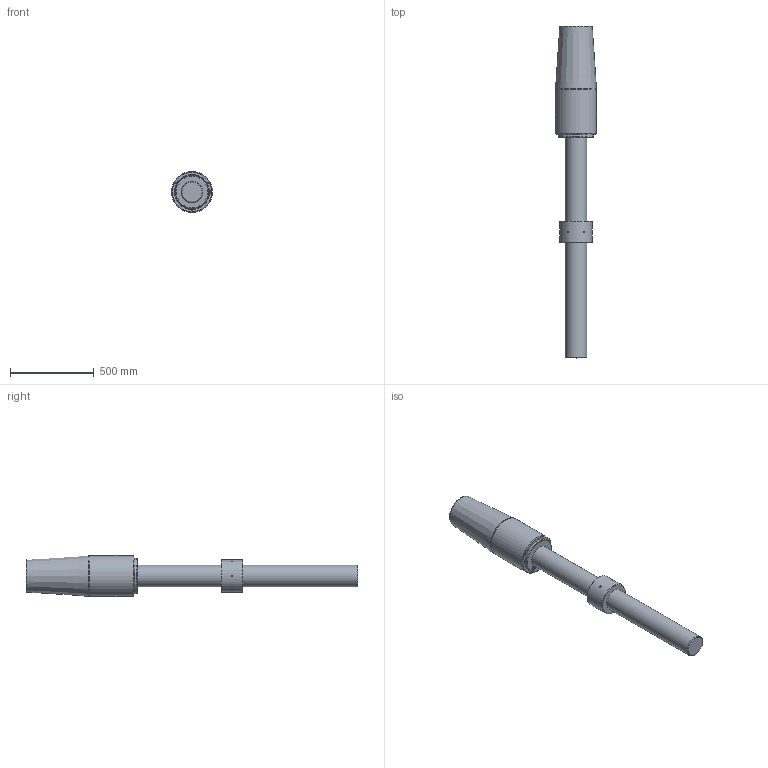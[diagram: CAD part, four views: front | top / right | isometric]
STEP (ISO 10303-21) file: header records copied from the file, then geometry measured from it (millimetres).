
FILE_DESCRIPTION(/* description */ (''),/* implementation_level */ '2;1');
FILE_NAME(/* name */ 'D:\Clienti\Redaelli (inventor)\CYB\STEP\Arrangement\CYB084 52 061 0.stp',/* time_stamp */ '2021-05-08T14:49:42+02:00',/* author */ ('fabri'),/* organization */ (''),/* preprocessor_version */ 'ST-DEVELOPER v16.13',/* originating_system */ 'Autodesk Inventor 2018',/* authorisation */ '');
FILE_SCHEMA (('AUTOMOTIVE_DESIGN { 1 0 10303 214 3 1 1 }'));
Length unit declared in the file: millimetre
Products named in the file (5): CYB084 52 061 0; RNT052 41 051 0_ROD; RNT052 41 051 0_ROD_1; CCY021-51-061-0_BUSH; CCY021-51-061-0
Assembly tree (4 placements, depth 2):
  CYB084 52 061 0
    RNT052 41 051 0_ROD
    RNT052 41 051 0_ROD_1
    CCY021-51-061-0_BUSH
    CCY021-51-061-0
Bounding box: 245 x 1983 x 245 mm (x, y, z)
Volume: 51965207.7 mm3; surface area: 1570373.5 mm2
Topology: 4 solids, 4 shells, 719 faces, 1908 edges, 1267 vertices
Faces by surface type: bspline 360, plane 321, cylinder 18, cone 16, torus 4
Full cylindrical faces by diameter (mm): 10 x6, 10.106 x3, 123.505 x2, 130 x1, 131 x1, 175 x1, 185 x1, 195 x1, 210 x1, 245 x1
Entity records: 24108 total; most frequent: CARTESIAN_POINT 8749, ORIENTED_EDGE 3718, DIRECTION 1907, EDGE_CURVE 1859, VERTEX_POINT 1257, LINE 1085, VECTOR 1085, EDGE_LOOP 832
